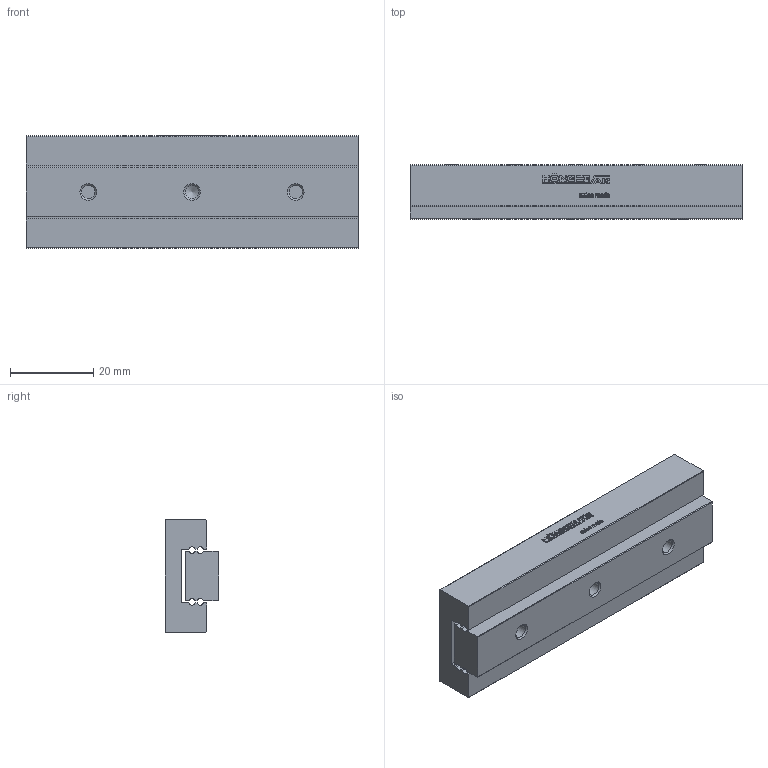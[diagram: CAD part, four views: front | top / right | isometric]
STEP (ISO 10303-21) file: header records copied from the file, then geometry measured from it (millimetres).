
FILE_DESCRIPTION(/* description */ ('STEP AP214'),/* implementation_level */ '2;1');
FILE_NAME(/* name */ 'MSK 12-80.72(0)',/* time_stamp */ '2025-04-16T17:03:25+02:00',/* author */ ('License CC BY-ND 4.0'),/* organization */ ('CADENAS'),/* preprocessor_version */ 'ST-DEVELOPER v19.3',/* originating_system */ 'PARTsolutions',/* authorisation */ ' ');
FILE_SCHEMA (('AUTOMOTIVE_DESIGN {1 0 10303 214 3 1 1}'));
Length unit declared in the file: millimetre
Products named in the file (3): MSK 12-80.72(0); MSK 12-80.72_1; MSK 12-80.72_2
Assembly tree (2 placements, depth 2):
  MSK 12-80.72(0)
    MSK 12-80.72_1
    MSK 12-80.72_2
Bounding box: 80 x 13 x 27 mm (x, y, z)
Volume: 22058.6 mm3; surface area: 11570.4 mm2
Topology: 2 solids, 2 shells, 544 faces, 1489 edges, 988 vertices
Faces by surface type: cylinder 315, plane 215, cone 14
Full cylindrical faces by diameter (mm): 2.459 x10, 3.242 x3, 6 x2
Entity records: 17417 total; most frequent: DIRECTION 3196, CARTESIAN_POINT 2994, ORIENTED_EDGE 2918, EDGE_CURVE 1459, AXIS2_PLACEMENT_3D 1190, VERTEX_POINT 988, LINE 816, VECTOR 816
